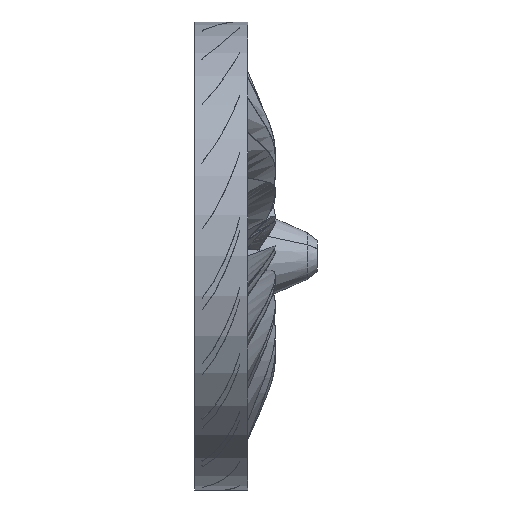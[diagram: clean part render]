
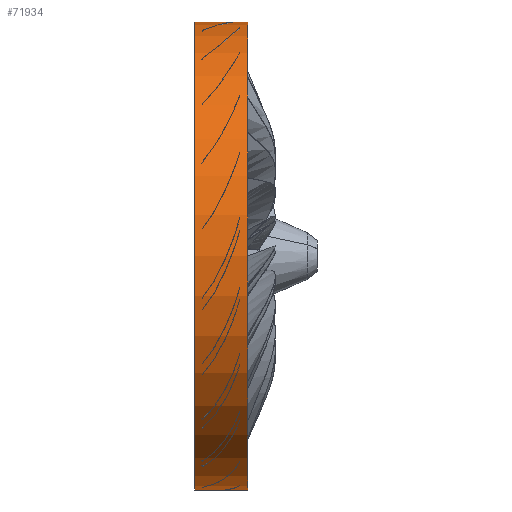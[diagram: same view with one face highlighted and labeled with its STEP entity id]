
A CAD part, top view. The second image highlights one B-rep face of the part: STEP entity #71934.
In plain terms, the highlighted cylindrical face has radius 3106.99 mm (diameter 6213.98 mm), a partial arc.
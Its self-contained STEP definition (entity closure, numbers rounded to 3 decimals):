
#71895=CARTESIAN_POINT('Axis2P3D Location',(284.,0.,0.)) ;
#71900=CARTESIAN_POINT('Line Origine',(284.,3106.988,0.)) ;
#71904=CARTESIAN_POINT('Vertex',(637.,3106.988,0.)) ;
#71906=CARTESIAN_POINT('Vertex',(-69.,3106.988,0.)) ;
#71909=CARTESIAN_POINT('Axis2P3D Location',(637.,0.,0.)) ;
#71913=CARTESIAN_POINT('Vertex',(637.,-3106.988,0.)) ;
#71916=CARTESIAN_POINT('Line Origine',(284.,-3106.988,0.)) ;
#71920=CARTESIAN_POINT('Vertex',(-69.,-3106.988,0.)) ;
#71923=CARTESIAN_POINT('Axis2P3D Location',(-69.,0.,0.)) ;
#71896=DIRECTION('Axis2P3D Direction',(1.,0.,0.)) ;
#71897=DIRECTION('Axis2P3D XDirection',(0.,1.,0.)) ;
#71901=DIRECTION('Vector Direction',(1.,0.,0.)) ;
#71910=DIRECTION('Axis2P3D Direction',(1.,0.,0.)) ;
#71917=DIRECTION('Vector Direction',(1.,0.,0.)) ;
#71924=DIRECTION('Axis2P3D Direction',(1.,0.,0.)) ;
#71898=AXIS2_PLACEMENT_3D('Cylinder Axis2P3D',#71895,#71896,#71897) ;
#71911=AXIS2_PLACEMENT_3D('Circle Axis2P3D',#71909,#71910,$) ;
#71925=AXIS2_PLACEMENT_3D('Circle Axis2P3D',#71923,#71924,$) ;
#71929=ORIENTED_EDGE('',*,*,#71908,.F.) ;
#71930=ORIENTED_EDGE('',*,*,#71915,.T.) ;
#71931=ORIENTED_EDGE('',*,*,#71922,.T.) ;
#71932=ORIENTED_EDGE('',*,*,#71927,.F.) ;
#71902=VECTOR('Line Direction',#71901,1.) ;
#71918=VECTOR('Line Direction',#71917,1.) ;
#71934=ADVANCED_FACE('Extrusion.1',(#71933),#71899,.F.) ;
#71912=CIRCLE('generated circle',#71911,3106.988) ;
#71926=CIRCLE('generated circle',#71925,3106.988) ;
#71899=CYLINDRICAL_SURFACE('generated cylinder',#71898,3106.988) ;
#71908=EDGE_CURVE('',#71905,#71907,#71903,.F.) ;
#71915=EDGE_CURVE('',#71905,#71914,#71912,.T.) ;
#71922=EDGE_CURVE('',#71914,#71921,#71919,.F.) ;
#71927=EDGE_CURVE('',#71907,#71921,#71926,.T.) ;
#71928=EDGE_LOOP('',(#71929,#71930,#71931,#71932)) ;
#71933=FACE_OUTER_BOUND('',#71928,.T.) ;
#71903=LINE('Line',#71900,#71902) ;
#71919=LINE('Line',#71916,#71918) ;
#71905=VERTEX_POINT('',#71904) ;
#71907=VERTEX_POINT('',#71906) ;
#71914=VERTEX_POINT('',#71913) ;
#71921=VERTEX_POINT('',#71920) ;
